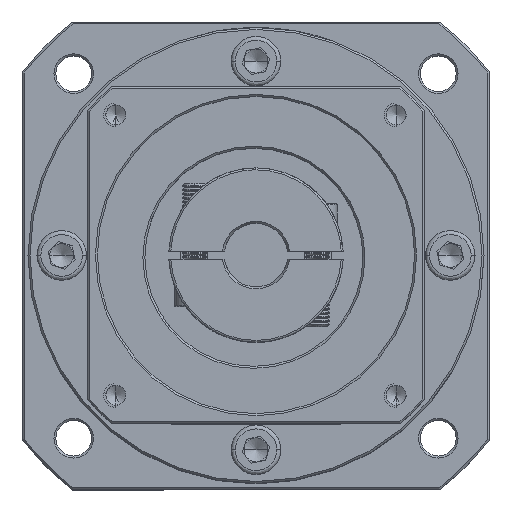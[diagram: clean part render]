
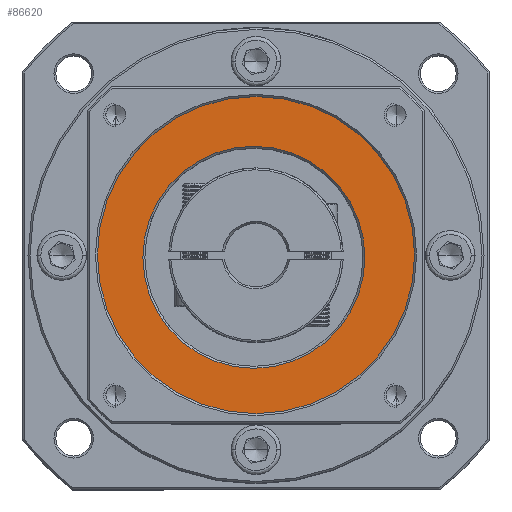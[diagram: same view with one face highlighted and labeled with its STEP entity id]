
A CAD part, top view. The second image highlights one B-rep face of the part: STEP entity #86620.
In plain terms, the highlighted planar face has unit normal (0, 0, 1).
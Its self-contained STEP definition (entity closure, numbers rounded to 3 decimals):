
#12372 = ORIENTED_EDGE ( 'NONE', *, *, #69716, .T. ) ;
#18566 = DIRECTION ( 'NONE',  ( 0., 0., 1. ) ) ;
#19925 = FACE_BOUND ( 'NONE', #115924, .T. ) ;
#22130 = DIRECTION ( 'NONE',  ( 0., 0., -1. ) ) ;
#22133 = CIRCLE ( 'NONE', #73939, 28. ) ;
#24875 = CARTESIAN_POINT ( 'NONE',  ( 64.249, 109.128, -13.796 ) ) ;
#29182 = DIRECTION ( 'NONE',  ( 0., 1., 0. ) ) ;
#31895 = AXIS2_PLACEMENT_3D ( 'NONE', #49904, #18566, #29182 ) ;
#34948 = CARTESIAN_POINT ( 'NONE',  ( 64.249, 29.128, -13.796 ) ) ;
#48831 = DIRECTION ( 'NONE',  ( 0., 1., 0. ) ) ;
#49308 = AXIS2_PLACEMENT_3D ( 'NONE', #112644, #22130, #111784 ) ;
#49371 = EDGE_LOOP ( 'NONE', ( #109724, #12372 ) ) ;
#49904 = CARTESIAN_POINT ( 'NONE',  ( 64.249, 69.128, -13.796 ) ) ;
#62166 = CARTESIAN_POINT ( 'NONE',  ( 64.249, 69.128, -13.796 ) ) ;
#67869 = DIRECTION ( 'NONE',  ( 0., 0., -1. ) ) ;
#68305 = CARTESIAN_POINT ( 'NONE',  ( 63.714, 68.586, -13.796 ) ) ;
#69716 = EDGE_CURVE ( 'NONE', #89455, #118737, #118930, .T. ) ;
#71008 = AXIS2_PLACEMENT_3D ( 'NONE', #62166, #102680, #112930 ) ;
#73939 = AXIS2_PLACEMENT_3D ( 'NONE', #68305, #67869, #48831 ) ;
#76318 = EDGE_CURVE ( 'NONE', #118737, #89455, #91644, .T. ) ;
#85353 = PLANE ( 'NONE',  #128515 ) ;
#85657 = CARTESIAN_POINT ( 'NONE',  ( 63.714, 96.586, -13.796 ) ) ;
#85883 = ORIENTED_EDGE ( 'NONE', *, *, #130814, .T. ) ;
#86620 = ADVANCED_FACE ( 'NONE', ( #113166, #19925 ), #85353, .T. ) ;
#89455 = VERTEX_POINT ( 'NONE', #34948 ) ;
#91644 = CIRCLE ( 'NONE', #71008, 40. ) ;
#95440 = DIRECTION ( 'NONE',  ( 0., 0., 1. ) ) ;
#97855 = CARTESIAN_POINT ( 'NONE',  ( 63.714, 40.586, -13.796 ) ) ;
#100159 = EDGE_CURVE ( 'NONE', #109967, #119261, #22133, .T. ) ;
#102680 = DIRECTION ( 'NONE',  ( 0., 0., 1. ) ) ;
#106399 = CIRCLE ( 'NONE', #49308, 28. ) ;
#106715 = ORIENTED_EDGE ( 'NONE', *, *, #100159, .T. ) ;
#109724 = ORIENTED_EDGE ( 'NONE', *, *, #76318, .T. ) ;
#109967 = VERTEX_POINT ( 'NONE', #97855 ) ;
#111784 = DIRECTION ( 'NONE',  ( 0., 1., 0. ) ) ;
#112644 = CARTESIAN_POINT ( 'NONE',  ( 63.714, 68.586, -13.796 ) ) ;
#112930 = DIRECTION ( 'NONE',  ( 0., 1., 0. ) ) ;
#113166 = FACE_OUTER_BOUND ( 'NONE', #49371, .T. ) ;
#114999 = CARTESIAN_POINT ( 'NONE',  ( 64.249, 69.128, -13.796 ) ) ;
#115924 = EDGE_LOOP ( 'NONE', ( #85883, #106715 ) ) ;
#118737 = VERTEX_POINT ( 'NONE', #24875 ) ;
#118930 = CIRCLE ( 'NONE', #31895, 40. ) ;
#119261 = VERTEX_POINT ( 'NONE', #85657 ) ;
#124743 = DIRECTION ( 'NONE',  ( 0., 1., 0. ) ) ;
#128515 = AXIS2_PLACEMENT_3D ( 'NONE', #114999, #95440, #124743 ) ;
#130814 = EDGE_CURVE ( 'NONE', #119261, #109967, #106399, .T. ) ;
